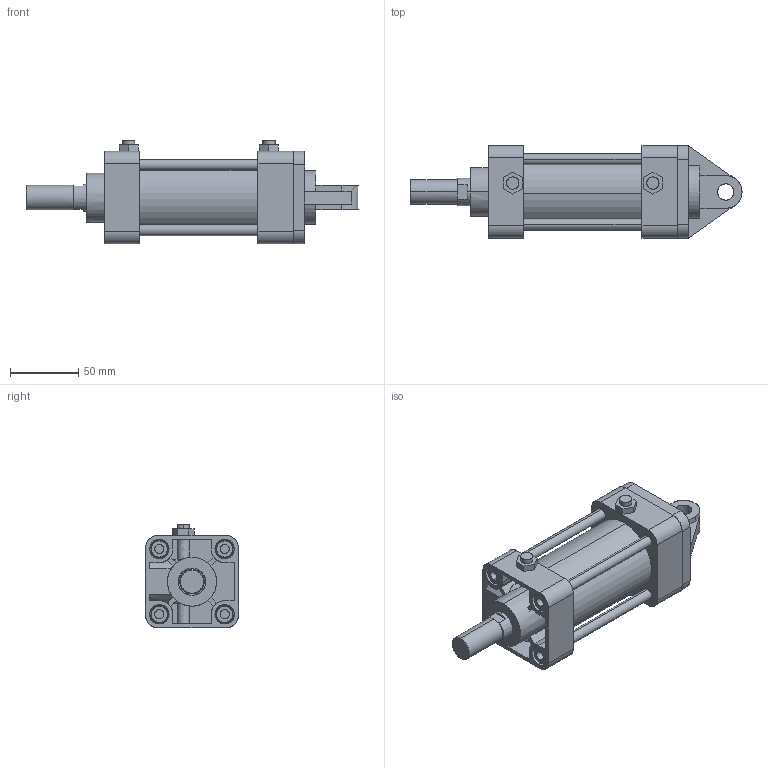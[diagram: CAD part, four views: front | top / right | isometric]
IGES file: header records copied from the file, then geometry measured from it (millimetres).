
Start section: SolidWorks IGES file using analytic representation for surfaces
Global section: file name: C:\Users\Toshiba\Desktop\KG2-50-50-C.IGS; native system: SolidWorks 2014; preprocessor: SolidWorks 2014; author: Toshiba; date: 160401.161205; units: millimetre
Bounding box: 244 x 68 x 76.3 mm (x, y, z)
Surface area: 115473.7 mm2 (no closed solid volume)
Topology: 0 solids, 0 shells, 363 faces, 5600 edges, 5596 vertices
Faces by surface type: bspline 193, revolution 170
